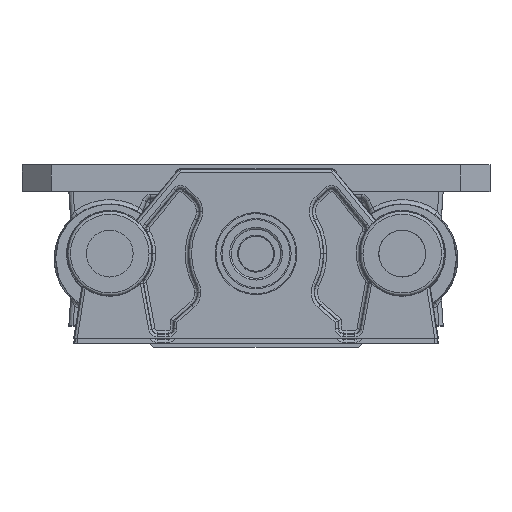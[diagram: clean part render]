
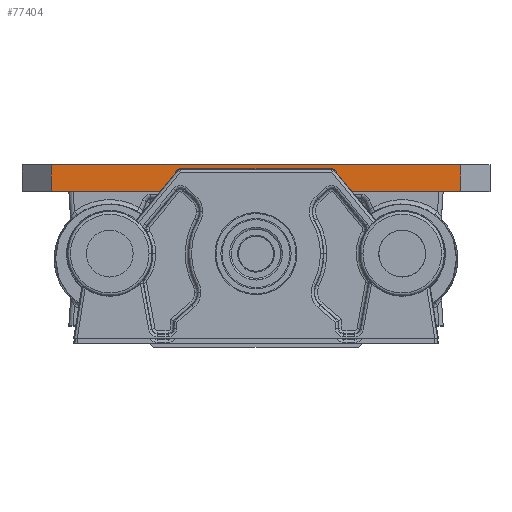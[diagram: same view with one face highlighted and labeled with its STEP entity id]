
A CAD part, top view. The second image highlights one B-rep face of the part: STEP entity #77404.
In plain terms, the highlighted planar face has unit normal (0, 0, 1) as drawn and (0, 1, 0) by its records, which use the part's own axes.
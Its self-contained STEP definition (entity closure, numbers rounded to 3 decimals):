
#3102 = ORIENTED_EDGE ( 'NONE', *, *, #81270, .T. ) ;
#6949 = CARTESIAN_POINT ( 'NONE',  ( -70., 50., 4.5 ) ) ;
#10400 = LINE ( 'NONE', #27775, #73747 ) ;
#13470 = ORIENTED_EDGE ( 'NONE', *, *, #40547, .T. ) ;
#13498 = LINE ( 'NONE', #70002, #34833 ) ;
#15203 = LINE ( 'NONE', #65913, #63597 ) ;
#19101 = VERTEX_POINT ( 'NONE', #69454 ) ;
#23081 = VERTEX_POINT ( 'NONE', #47015 ) ;
#24661 = CARTESIAN_POINT ( 'NONE',  ( 80., 50., 4.5 ) ) ;
#25587 = VERTEX_POINT ( 'NONE', #68390 ) ;
#27775 = CARTESIAN_POINT ( 'NONE',  ( 80., 50., -4.5 ) ) ;
#29080 = VERTEX_POINT ( 'NONE', #6949 ) ;
#29786 = ORIENTED_EDGE ( 'NONE', *, *, #77547, .F. ) ;
#34833 = VECTOR ( 'NONE', #50605, 1000. ) ;
#37428 = DIRECTION ( 'NONE',  ( 0., -1., 0. ) ) ;
#40547 = EDGE_CURVE ( 'NONE', #23081, #29080, #15203, .T. ) ;
#47015 = CARTESIAN_POINT ( 'NONE',  ( -70., 50., -4.5 ) ) ;
#50605 = DIRECTION ( 'NONE',  ( -1., 0., 0. ) ) ;
#51655 = ORIENTED_EDGE ( 'NONE', *, *, #55704, .T. ) ;
#55169 = FACE_OUTER_BOUND ( 'NONE', #72490, .T. ) ;
#55581 = PLANE ( 'NONE',  #65148 ) ;
#55704 = EDGE_CURVE ( 'NONE', #25587, #23081, #10400, .T. ) ;
#56545 = DIRECTION ( 'NONE',  ( 0., 0., -1. ) ) ;
#62354 = LINE ( 'NONE', #74716, #81202 ) ;
#63597 = VECTOR ( 'NONE', #65509, 1000. ) ;
#65148 = AXIS2_PLACEMENT_3D ( 'NONE', #24661, #37428, #79935 ) ;
#65509 = DIRECTION ( 'NONE',  ( 0., 0., 1. ) ) ;
#65913 = CARTESIAN_POINT ( 'NONE',  ( -70., 50., 4.5 ) ) ;
#68390 = CARTESIAN_POINT ( 'NONE',  ( 70., 50., -4.5 ) ) ;
#69454 = CARTESIAN_POINT ( 'NONE',  ( 70., 50., 4.5 ) ) ;
#70002 = CARTESIAN_POINT ( 'NONE',  ( 80., 50., 4.5 ) ) ;
#72490 = EDGE_LOOP ( 'NONE', ( #29786, #3102, #51655, #13470 ) ) ;
#73747 = VECTOR ( 'NONE', #78485, 1000. ) ;
#74716 = CARTESIAN_POINT ( 'NONE',  ( 70., 50., 4.5 ) ) ;
#77404 = ADVANCED_FACE ( 'NONE', ( #55169 ), #55581, .F. ) ;
#77547 = EDGE_CURVE ( 'NONE', #19101, #29080, #13498, .T. ) ;
#78485 = DIRECTION ( 'NONE',  ( -1., 0., 0. ) ) ;
#79935 = DIRECTION ( 'NONE',  ( 1., 0., 0. ) ) ;
#81202 = VECTOR ( 'NONE', #56545, 1000. ) ;
#81270 = EDGE_CURVE ( 'NONE', #19101, #25587, #62354, .T. ) ;
